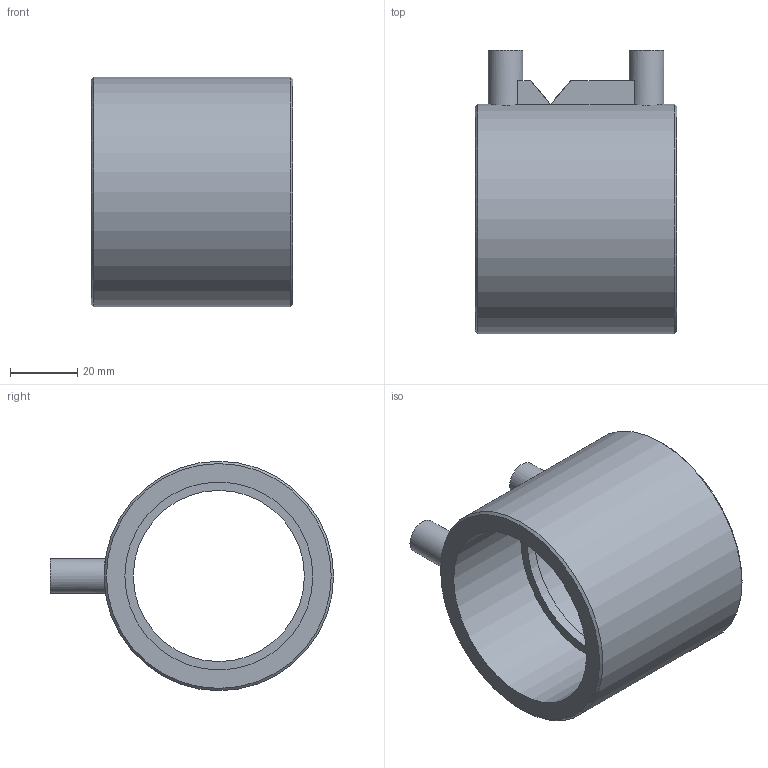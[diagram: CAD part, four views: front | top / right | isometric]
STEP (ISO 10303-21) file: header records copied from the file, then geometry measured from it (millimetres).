
FILE_DESCRIPTION(/* description */ (''),/* implementation_level */ '2;1');
FILE_NAME(/* name */ 'H:\Geberit-Teile\Export\Fertig zum Export\Elektro-Schweissmuffe_Ipart\stp\363771.stp',/* time_stamp */ '2017-07-24T13:33:09+02:00',/* author */ ('seihe2'),/* organization */ (''),/* preprocessor_version */ 'ST-DEVELOPER v15.2',/* originating_system */ 'Autodesk Inventor 2014',/* authorisation */ '');
FILE_SCHEMA (('AUTOMOTIVE_DESIGN { 1 0 10303 214 3 1 1 }'));
Length unit declared in the file: millimetre
Products named in the file (1): 363771
Bounding box: 60 x 84.4 x 68.4 mm (x, y, z)
Volume: 76566.1 mm3; surface area: 29120.3 mm2
Topology: 1 solids, 1 shells, 30 faces, 64 edges, 42 vertices
Faces by surface type: plane 14, cylinder 12, cone 4
Full cylindrical faces by diameter (mm): 7.4 x2, 10.4 x2, 51 x1, 56 x2, 57.35 x2, 68.4 x1
Entity records: 866 total; most frequent: CARTESIAN_POINT 242, DIRECTION 116, ORIENTED_EDGE 90, AXIS2_PLACEMENT_3D 52, EDGE_LOOP 51, EDGE_CURVE 45, VERTEX_POINT 36, STYLED_ITEM 31
